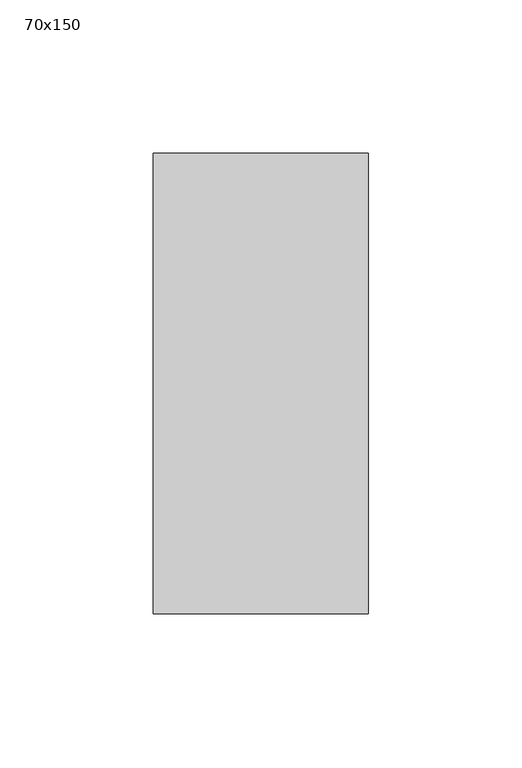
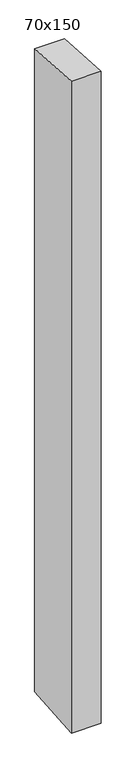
"""IFC4 building model written with IfcOpenShell, lengths in millimetres: member geometry, 長方形のマリオン : 70x150."""

from ifc_helpers import new_model, si_unit, frame, origin, place, context, project, spatial, polyline, outline, extrude, source, transform, mapped, element, save


def member_70x150_2632d942(model_context):
    return source(origin(), model_context, "Body", "SweptSolid", [
        extrude(outline(polyline([(-75.0, 4.9317385), (75.0, -4.9317385), (75.0, -1612.9055464), (-75.0, -1625.0569542), (-75.0, 4.9317385)])), frame((-70.0, 0.0, 0.0), z_axis=(1.0, 0.0, 0.0), x_axis=(0.0, 1.0, 0.0)), (0.0, 0.0, 1.0), 70.0),
    ])


if __name__ == "__main__":
    model = new_model("IFC4")
    model_context = context("Model", 3, world=origin())
    ifc_project = project(units=[si_unit("LENGTHUNIT", "METRE", prefix="MILLI")], contexts=[model_context])
    site = spatial("IfcSite", under=ifc_project)
    building = spatial("IfcBuilding", under=site)
    placement = place(None, origin())
    member_70x150_shape = member_70x150_2632d942(model_context)
    element("IfcMember", 1, ObjectType="長方形のマリオン : 70x150", at=placement, inside=building, context=model_context, shape_type="MappedRepresentation", body=[
        mapped(member_70x150_shape, transform((0.0, 0.0, 0.0), x_axis=(1.0, 0.0, 0.0), y_axis=(0.0, 1.0, 0.0), z_axis=(0.0, 0.0, 1.0))),
    ])
    save(model, "model.ifc")
